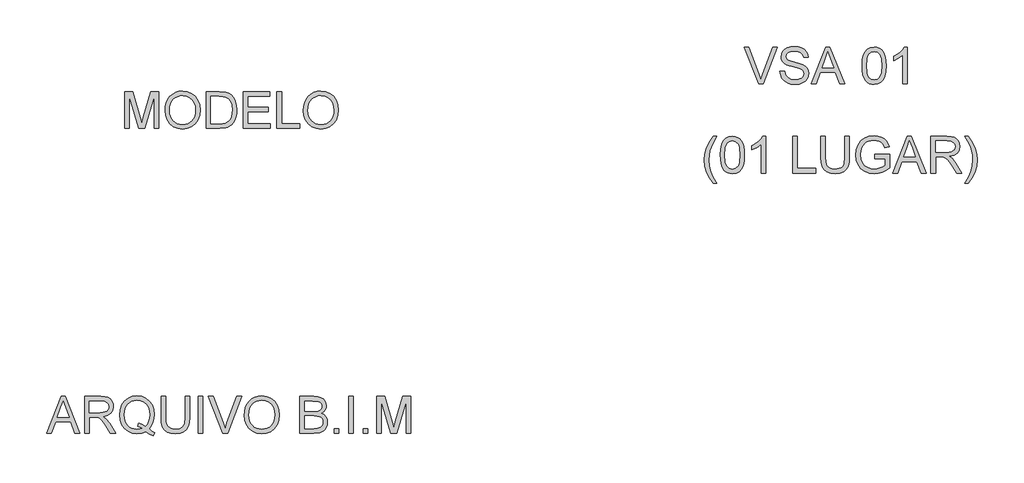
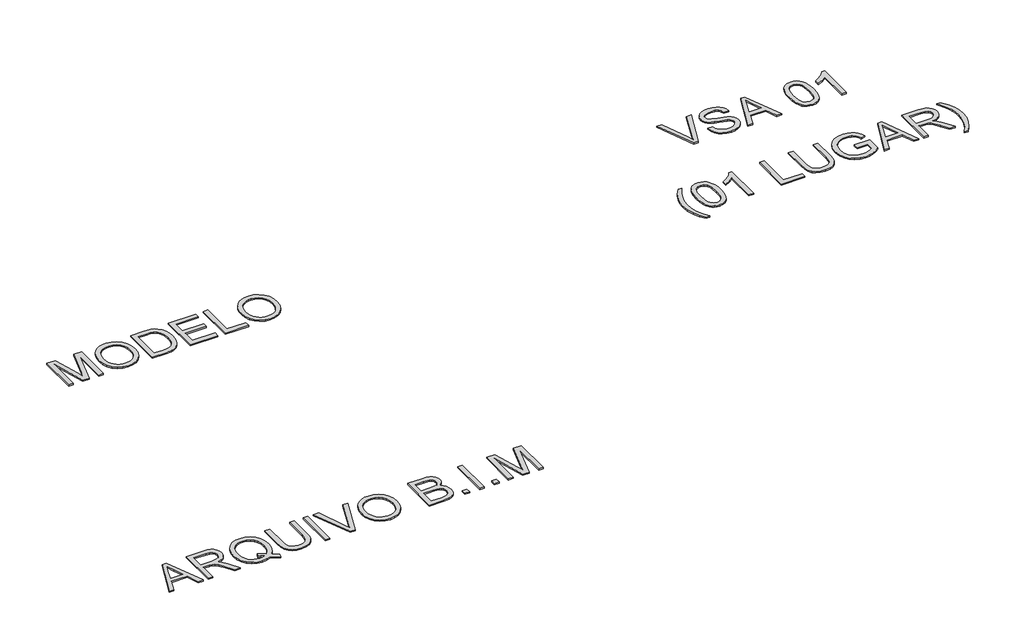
# One storey, part 1 of 4: 3 proxies.
"""IFC4 building model written with IfcOpenShell, lengths in millimetres."""

from ifc_helpers import new_model, si_unit, origin, origin_with_axes, place, context, project, spatial, polyline, outline, extrude, element, save

model = new_model("IFC4")

# Units and contexts
model_context = context("Model", 3, world=origin())
ifc_project = project(units=[si_unit("LENGTHUNIT", "METRE", prefix="MILLI")], contexts=[model_context])

# Site, building, storey
site = spatial("IfcSite", under=ifc_project)
building = spatial("IfcBuilding", under=site)
storey = spatial("IfcBuildingStorey", under=building, Name="Marelli - Linha VIGORE - Planta Baixa", Elevation=0.0)

# Proxies
placement = place(None, origin())
element("IfcBuildingElementProxy", 1, Name="300mm Arial", ObjectType="300mm Arial", at=placement, inside=storey, context=model_context, shape_type="SweptSolid", body=[
    extrude(outline(polyline([(-16767.1905582, 10085.3581335), (-16887.1200887, 10386.7270639), (-16846.800222, 10386.7270639), (-16766.5283706, 10169.6031104), (-16750.2679865, 10120.674805), (-16734.2283315, 10169.6031104), (-16653.7357509, 10386.7270639), (-16613.4158842, 10386.7270639), (-16728.2686431, 10085.3581335), (-16767.1905582, 10085.3581335)])), origin_with_axes(), (0.0, 0.0, 1.0), 10.0),
    extrude(outline(polyline([(-16592.5201869, 10188.9537033), (-16554.8490706, 10188.9537033), (-16550.5264572, 10168.0488089), (-16542.7089648, 10151.2457988), (-16530.5136766, 10137.9100765), (-16513.057676, 10127.4070455), (-16491.7205202, 10120.5920316), (-16467.881767, 10118.3203602), (-16446.8940991, 10120.0402086), (-16428.5183935, 10125.1997535), (-16413.6283697, 10133.3667338), (-16403.0977476, 10144.1088881), (-16396.8345566, 10156.442132), (-16394.7468263, 10169.3823812), (-16396.3103248, 10181.9915366), (-16401.0008202, 10192.8900407), (-16410.5289639, 10202.1882581), (-16426.6054071, 10209.9965534), (-16481.4566126, 10224.3807394), (-16517.4630629, 10233.8996861), (-16540.5016728, 10242.9587802), (-16559.2544575, 10255.6323149), (-16572.5441946, 10270.9913882), (-16580.4628545, 10288.7049063), (-16583.1024078, 10308.4417753), (-16579.8374551, 10330.505498), (-16570.042597, 10351.0792986), (-16553.9753509, 10368.5169052), (-16531.8932341, 10381.1720458), (-16505.3873364, 10388.8699765), (-16476.0487472, 10391.4359535), (-16444.2637429, 10388.7504149), (-16416.451864, 10380.6937992), (-16393.6063921, 10367.4316533), (-16376.7206085, 10349.129524), (-16366.0336366, 10326.9278456), (-16361.7845995, 10301.9670522), (-16399.4557159, 10301.9670522), (-16406.3718974, 10324.4446421), (-16420.7928716, 10340.6682381), (-16443.3256438, 10350.4906874), (-16474.5772193, 10353.7648371), (-16506.5645587, 10350.5274756), (-16528.5087198, 10340.8153909), (-16541.2006486, 10326.5231754), (-16545.4312915, 10309.5454213), (-16542.4330533, 10295.0692648), (-16533.4383385, 10283.4257997), (-16512.1747592, 10273.0147392), (-16471.9284689, 10262.3829495), (-16430.3945916, 10252.2845888), (-16405.2682514, 10243.473815), (-16383.7931399, 10229.8069989), (-16368.8111457, 10212.9396094), (-16360.0095689, 10193.0555876), (-16357.07571, 10170.3388744), (-16360.4510273, 10147.1163234), (-16370.5769792, 10125.2733299), (-16387.0396985, 10106.47456), (-16409.4253179, 10092.3846796), (-16436.3450829, 10083.5831028), (-16466.410239, 10080.6492439), (-16503.3180001, 10083.8130291), (-16533.6958559, 10093.3043846), (-16557.8932941, 10109.1600986), (-16576.2598027, 10131.4169593), (-16588.0504207, 10158.5298623), (-16592.5201869, 10188.9537033)])), origin_with_axes(), (0.0, 0.0, 1.0), 10.0),
    extrude(outline(polyline([(-16335.6649779, 10085.3581335), (-16215.3675655, 10386.7270639), (-16183.2882555, 10386.7270639), (-16062.9908431, 10085.3581335), (-16102.7956749, 10085.3581335), (-16137.3030061, 10179.5359242), (-16261.4263913, 10179.5359242), (-16295.860146, 10085.3581335), (-16335.6649779, 10085.3581335)]), holes=[polyline([(-16247.5940282, 10217.2070405), (-16151.0617927, 10217.2070405), (-16178.211484, 10291.2984744), (-16199.3279105, 10349.0559476), (-16218.0898922, 10297.7731975), (-16247.5940282, 10217.2070405)])]), origin_with_axes(), (0.0, 0.0, 1.0), 10.0),
    extrude(outline(polyline([(-15919.1489829, 10233.6145775), (-15916.3806709, 10281.8531041), (-15908.0757349, 10320.3243638), (-15894.3169483, 10349.6169677), (-15875.1870845, 10370.3195269), (-15850.5481879, 10382.6251797), (-15820.2623026, 10386.7270639), (-15797.0489487, 10384.2990427), (-15776.263616, 10377.0149792), (-15758.8811918, 10365.1599819), (-15745.8765632, 10349.0191594), (-15736.0541139, 10328.7304674), (-15728.2182275, 10304.4318616), (-15723.0862736, 10273.5757592), (-15721.3756223, 10233.6145775), (-15724.1163432, 10185.6519624), (-15732.3385058, 10147.2726733), (-15746.014519, 10117.9524782), (-15765.1167916, 10097.1671455), (-15789.8108705, 10084.7787193), (-15820.2623026, 10080.6492439), (-15841.0108472, 10082.4426687), (-15859.4049469, 10087.8229428), (-15875.4446019, 10096.7900665), (-15889.1298121, 10109.3440396), (-15902.2631994, 10132.0377601), (-15911.6441902, 10160.31409), (-15917.2727848, 10194.1730291), (-15919.1489829, 10233.6145775)]), holes=[polyline([(-15881.4778666, 10233.6881539), (-15877.0632827, 10174.4315615), (-15871.5450528, 10154.1635629), (-15863.8195309, 10140.1357625), (-15844.1010559, 10123.7742108), (-15820.2623026, 10118.3203602), (-15796.4235494, 10123.7926049), (-15776.7050744, 10140.2093389), (-15768.9795525, 10154.2601319), (-15763.4613226, 10174.523532), (-15759.0467386, 10233.6881539), (-15763.3141698, 10291.6111741), (-15768.6484587, 10311.8124941), (-15776.1164632, 10326.1736875), (-15795.79815, 10343.3353826), (-15820.703761, 10349.0559476), (-15844.2849969, 10344.0159643), (-15863.2309197, 10328.8960143), (-15871.213959, 10313.2610295), (-15876.9161299, 10292.1813912), (-15881.4778666, 10233.6881539)])]), origin_with_axes(), (0.0, 0.0, 1.0), 10.0),
    extrude(outline(polyline([(-15547.1467094, 10085.3581335), (-15584.8178257, 10085.3581335), (-15584.8178257, 10320.2139992), (-15620.5023793, 10294.7933533), (-15660.1600583, 10275.7738542), (-15660.1600583, 10311.3848313), (-15630.5731489, 10327.4796686), (-15604.9409709, 10346.6279264), (-15584.7350523, 10366.9901949), (-15571.4269211, 10386.7270639), (-15547.1467094, 10386.7270639), (-15547.1467094, 10085.3581335)])), origin_with_axes(), (0.0, 0.0, 1.0), 10.0),
    extrude(outline(polyline([(-17138.7513734, 9268.7492147), (-17167.9428097, 9309.7128749), (-17192.2414155, 9357.1144699), (-17208.6305583, 9408.6547375), (-17214.093606, 9462.034415), (-17210.0101158, 9508.8473989), (-17197.7596454, 9553.6370318), (-17173.4426455, 9604.3679589), (-17138.7513734, 9654.8781568), (-17110.4980361, 9654.8781568), (-17145.7411313, 9595.2076972), (-17166.9311342, 9537.3766476), (-17174.0496508, 9499.6871372), (-17176.4224897, 9461.8136858), (-17172.3022113, 9413.5199769), (-17159.9413763, 9365.244662), (-17139.3399846, 9316.9877413), (-17110.4980361, 9268.7492147), (-17138.7513734, 9268.7492147)])), origin_with_axes(), (0.0, 0.0, 1.0), 10.0),
    extrude(outline(polyline([(-17082.2446989, 9501.7656705), (-17079.4763869, 9550.0041971), (-17071.1714508, 9588.4754567), (-17057.4126642, 9617.7680606), (-17038.2828005, 9638.4706199), (-17013.6439038, 9650.7762726), (-16983.3580186, 9654.8781568), (-16960.1446647, 9652.4501357), (-16939.359332, 9645.1660722), (-16921.9769077, 9633.3110749), (-16908.9722792, 9617.1702523), (-16899.1498299, 9596.8815603), (-16891.3139434, 9572.5829545), (-16886.1819896, 9541.7268522), (-16884.4713383, 9501.7656705), (-16887.2120592, 9453.8030553), (-16895.4342217, 9415.4237662), (-16909.1102349, 9386.1035712), (-16928.2125075, 9365.3182384), (-16952.9065864, 9352.9298123), (-16983.3580186, 9348.8003369), (-17004.1065631, 9350.5937616), (-17022.5006629, 9355.9740358), (-17038.5403179, 9364.9411594), (-17052.2255281, 9377.4951325), (-17065.3589153, 9400.1888531), (-17074.7399062, 9428.4651829), (-17080.3685007, 9462.324122), (-17082.2446989, 9501.7656705)]), holes=[polyline([(-17044.5735826, 9501.8392469), (-17040.1589987, 9442.5826545), (-17034.6407687, 9422.3146558), (-17026.9152468, 9408.2868555), (-17007.1967719, 9391.9253037), (-16983.3580186, 9386.4714532), (-16959.5192653, 9391.9436978), (-16939.8007904, 9408.3604319), (-16932.0752685, 9422.4112248), (-16926.5570385, 9442.674625), (-16922.1424546, 9501.8392469), (-16926.4098857, 9559.762267), (-16931.7441747, 9579.9635871), (-16939.2121792, 9594.3247804), (-16958.8938659, 9611.4864755), (-16983.799477, 9617.2070405), (-17007.3807129, 9612.1670572), (-17026.3266356, 9597.0471072), (-17034.3096749, 9581.4121224), (-17040.0118459, 9560.3324841), (-17044.5735826, 9501.8392469)])]), origin_with_axes(), (0.0, 0.0, 1.0), 10.0),
    extrude(outline(polyline([(-16710.2424254, 9353.5092264), (-16747.9135417, 9353.5092264), (-16747.9135417, 9588.3650921), (-16783.5980952, 9562.9444463), (-16823.2557743, 9543.9249471), (-16823.2557743, 9579.5359242), (-16793.6688648, 9595.6307615), (-16768.0366868, 9614.7790194), (-16747.8307682, 9635.1412878), (-16734.5226371, 9654.8781568), (-16710.2424254, 9654.8781568), (-16710.2424254, 9353.5092264)])), origin_with_axes(), (0.0, 0.0, 1.0), 10.0),
    extrude(outline(polyline([(-16488.9246171, 9353.5092264), (-16488.9246171, 9654.8781568), (-16451.2535008, 9654.8781568), (-16451.2535008, 9391.1803427), (-16300.5690355, 9391.1803427), (-16300.5690355, 9353.5092264), (-16488.9246171, 9353.5092264)])), origin_with_axes(), (0.0, 0.0, 1.0), 10.0),
    extrude(outline(polyline([(-16060.4156691, 9654.8781568), (-16022.7445528, 9654.8781568), (-16022.7445528, 9481.0171259), (-16025.3013327, 9440.3017861), (-16032.9716723, 9408.9490431), (-16047.300676, 9384.7608019), (-16069.8334482, 9365.5389676), (-16100.6251712, 9352.9849946), (-16139.7310273, 9348.8003369), (-16177.9815577, 9352.4423686), (-16208.5617486, 9363.3684639), (-16231.4807969, 9381.2015436), (-16246.7478997, 9405.5645287), (-16255.3287472, 9438.2416469), (-16258.1890297, 9481.0171259), (-16258.1890297, 9654.8781568), (-16220.5179134, 9654.8781568), (-16220.5179134, 9482.3415011), (-16218.6601093, 9448.4871605), (-16213.0866971, 9424.9151217), (-16202.9883363, 9408.5903581), (-16187.5556866, 9396.4778434), (-16167.4325415, 9388.9730507), (-16143.2626944, 9386.4714532), (-16104.9477846, 9391.419466), (-16090.6049853, 9397.604482), (-16079.4719564, 9406.2635045), (-16071.1348307, 9418.4403985), (-16065.1797409, 9435.1790293), (-16060.4156691, 9482.3415011), (-16060.4156691, 9654.8781568)])), origin_with_axes(), (0.0, 0.0, 1.0), 10.0),
    extrude(outline(polyline([(-15815.5534131, 9471.2314649), (-15815.5534131, 9508.9025812), (-15693.1222851, 9508.9025812), (-15693.1222851, 9396.2571142), (-15722.8747415, 9375.563752), (-15753.5652969, 9360.7197135), (-15785.1203751, 9351.780181), (-15817.4663995, 9348.8003369), (-15859.7268437, 9353.5368175), (-15897.9221918, 9367.7462596), (-15929.6520139, 9390.9320224), (-15952.5158799, 9422.5974651), (-15966.3390459, 9460.5812811), (-15970.9467679, 9502.7221636), (-15966.35744, 9545.1665488), (-15952.5894563, 9584.649484), (-15930.213034, 9617.7680606), (-15899.79839, 9641.1193702), (-15862.7526731, 9654.9701273), (-15820.4830318, 9659.5870464), (-15789.4521855, 9656.9107049), (-15761.5483362, 9648.8816803), (-15738.0498738, 9636.0793869), (-15720.2351882, 9619.0832387), (-15707.0558157, 9597.0746984), (-15697.4632927, 9569.2352284), (-15732.191353, 9559.4495673), (-15739.944466, 9579.305998), (-15749.3714422, 9594.2879922), (-15761.8426418, 9605.5819695), (-15778.7284254, 9614.3743492), (-15798.8607676, 9620.0305349), (-15821.071643, 9621.9159301), (-15847.071703, 9619.8833821), (-15869.3009726, 9613.785738), (-15887.6766783, 9604.386353), (-15902.1160466, 9592.4485823), (-15921.5034277, 9563.4226928), (-15930.3325956, 9534.9854146), (-15933.2756516, 9504.267268), (-15929.7347874, 9468.2424236), (-15919.1121947, 9438.6003319), (-15901.7297705, 9415.5525249), (-15877.9094113, 9399.3105348), (-15850.0331531, 9389.6812236), (-15820.4830318, 9386.4714532), (-15794.3910013, 9388.8902773), (-15768.9427643, 9396.1467496), (-15746.8422535, 9406.1439429), (-15730.7934014, 9416.7849296), (-15730.7934014, 9471.2314649), (-15815.5534131, 9471.2314649)])), origin_with_axes(), (0.0, 0.0, 1.0), 10.0),
    extrude(outline(polyline([(-15667.0026635, 9353.5092264), (-15546.705251, 9654.8781568), (-15514.6259411, 9654.8781568), (-15394.3285286, 9353.5092264), (-15434.1333605, 9353.5092264), (-15468.6406917, 9447.6870172), (-15592.7640768, 9447.6870172), (-15627.1978316, 9353.5092264), (-15667.0026635, 9353.5092264)]), holes=[polyline([(-15578.9317138, 9485.3581335), (-15482.3994783, 9485.3581335), (-15509.5491695, 9559.4495673), (-15530.665596, 9617.2070405), (-15549.4275778, 9565.9242904), (-15578.9317138, 9485.3581335)])]), origin_with_axes(), (0.0, 0.0, 1.0), 10.0),
    extrude(outline(polyline([(-15354.0822384, 9353.5092264), (-15354.0822384, 9654.8781568), (-15224.2198941, 9654.8781568), (-15189.3170898, 9652.8456088), (-15163.9240351, 9646.7479648), (-15145.3643884, 9635.4907757), (-15130.9618083, 9617.9795927), (-15121.7187732, 9596.265358), (-15118.6377614, 9572.3990135), (-15123.7421241, 9542.7109365), (-15139.0552122, 9518.099631), (-15150.6549913, 9508.0702481), (-15165.0368781, 9500.0550192), (-15202.1469743, 9490.067023), (-15180.7362422, 9473.9537916), (-15150.2020366, 9435.1790293), (-15099.9493561, 9353.5092264), (-15143.7273135, 9353.5092264), (-15182.9435342, 9415.9755892), (-15211.2704478, 9457.3255254), (-15231.1728638, 9476.8600594), (-15249.0887169, 9484.0337583), (-15270.9409074, 9485.3581335), (-15316.4111221, 9485.3581335), (-15316.4111221, 9353.5092264), (-15354.0822384, 9353.5092264)]), holes=[polyline([(-15316.4111221, 9523.0292498), (-15232.0925688, 9523.0292498), (-15207.8767364, 9524.362822), (-15189.0871635, 9528.3635387), (-15174.9421008, 9535.2981143), (-15164.659799, 9545.4332633), (-15158.3966081, 9557.6929308), (-15156.3088778, 9571.0010619), (-15160.2912003, 9589.3767676), (-15172.2381681, 9604.1840179), (-15192.7935746, 9613.9512849), (-15222.6012133, 9617.2070405), (-15316.4111221, 9617.2070405), (-15316.4111221, 9523.0292498)])]), origin_with_axes(), (0.0, 0.0, 1.0), 10.0),
    extrude(outline(polyline([(-15048.0044184, 9268.7492147), (-15076.2577556, 9268.7492147), (-15047.4158072, 9316.9877413), (-15026.8144154, 9365.244662), (-15014.4535804, 9413.5199769), (-15010.3333021, 9461.8136858), (-15012.7061409, 9499.4112257), (-15019.8246575, 9536.71446), (-15028.8193723, 9566.2737783), (-15040.7939313, 9594.619086), (-15076.2577556, 9654.8781568), (-15048.0044184, 9654.8781568), (-15013.3131462, 9604.3679589), (-14988.9961463, 9553.6370318), (-14976.7456759, 9508.8473989), (-14972.6621858, 9462.034415), (-14978.1528245, 9408.6547375), (-14994.6247409, 9357.1144699), (-15018.9509378, 9309.7128749), (-15048.0044184, 9268.7492147)])), origin_with_axes(), (0.0, 0.0, 1.0), 10.0),
])
element("IfcBuildingElementProxy", 2, Name="300mm Arial", ObjectType="300mm Arial", at=placement, inside=storey, context=model_context, shape_type="SweptSolid", body=[
    extrude(outline(polyline([(-22609.419598, 7219.4336799), (-22489.1221856, 7520.8026104), (-22457.0428756, 7520.8026104), (-22336.7454632, 7219.4336799), (-22376.550295, 7219.4336799), (-22411.0576262, 7313.6114707), (-22535.1810114, 7313.6114707), (-22569.6147661, 7219.4336799), (-22609.419598, 7219.4336799)]), holes=[polyline([(-22521.3486483, 7351.282587), (-22424.8164128, 7351.282587), (-22451.9661041, 7425.3740208), (-22473.0825306, 7483.1314941), (-22491.8445123, 7431.8487439), (-22521.3486483, 7351.282587)])]), origin_with_axes(), (0.0, 0.0, 1.0), 10.0),
    extrude(outline(polyline([(-22296.4991729, 7219.4336799), (-22296.4991729, 7520.8026104), (-22166.6368286, 7520.8026104), (-22131.7340243, 7518.7700624), (-22106.3409696, 7512.6724183), (-22087.7813229, 7501.4152292), (-22073.3787428, 7483.9040463), (-22064.1357077, 7462.1898115), (-22061.054696, 7438.3234671), (-22066.1590587, 7408.6353901), (-22081.4721467, 7384.0240846), (-22093.0719259, 7373.9947017), (-22107.4538126, 7365.9794727), (-22144.5639089, 7355.9914765), (-22123.1531768, 7339.8782452), (-22092.6189712, 7301.1034829), (-22042.3662906, 7219.4336799), (-22086.144248, 7219.4336799), (-22125.3604687, 7281.9000427), (-22153.6873824, 7323.249979), (-22173.5897983, 7342.7845129), (-22191.5056515, 7349.9582118), (-22213.357842, 7351.282587), (-22258.8280566, 7351.282587), (-22258.8280566, 7219.4336799), (-22296.4991729, 7219.4336799)]), holes=[polyline([(-22258.8280566, 7388.9537033), (-22174.5095033, 7388.9537033), (-22150.293671, 7390.2872755), (-22131.5040981, 7394.2879922), (-22117.3590353, 7401.2225678), (-22107.0767336, 7411.3577168), (-22100.8135426, 7423.6173843), (-22098.7258123, 7436.9255155), (-22102.7081349, 7455.3012211), (-22114.6551027, 7470.1084714), (-22135.2105092, 7479.8757384), (-22165.0181478, 7483.1314941), (-22258.8280566, 7483.1314941), (-22258.8280566, 7388.9537033)])]), origin_with_axes(), (0.0, 0.0, 1.0), 10.0),
    extrude(outline(polyline([(-21768.7356626, 7255.5596919), (-21744.4002686, 7236.963257), (-21722.0146492, 7224.1425695), (-21732.1681923, 7196.5514198), (-21763.2358268, 7210.9539999), (-21794.1930967, 7231.794515), (-21829.0499157, 7218.9922215), (-21867.4016137, 7214.7247904), (-21905.9372527, 7219.6452121), (-21940.7572836, 7234.4064771), (-21969.9211287, 7258.0796835), (-21991.4882107, 7289.7359292), (-22004.814736, 7327.6369718), (-22009.2569111, 7370.0445688), (-22004.823933, 7412.488954), (-21991.5249989, 7450.9418195), (-21970.0406904, 7483.0487206), (-21941.0515892, 7506.4552126), (-21906.360317, 7520.7474281), (-21867.7694957, 7525.5114999), (-21828.8751718, 7520.6370635), (-21794.0091557, 7506.0137542), (-21765.0660397, 7482.6164593), (-21743.9404161, 7451.4200661), (-21731.0277581, 7414.0800436), (-21726.7235388, 7372.2518607), (-21729.3355009, 7337.4686181), (-21737.1713874, 7306.4009836), (-21750.2863806, 7279.0857454), (-21768.7356626, 7255.5596919)]), holes=[polyline([(-21857.0273415, 7305.6652196), (-21825.3527017, 7293.6906607), (-21799.784903, 7277.0440004), (-21784.3016695, 7294.5183951), (-21773.2422171, 7315.8923391), (-21766.6065456, 7341.1658321), (-21764.3946551, 7370.3388744), (-21767.521652, 7403.4942392), (-21776.9026429, 7432.1798377), (-21792.3077015, 7455.6691031), (-21813.5069014, 7473.2354684), (-21839.065503, 7484.1891548), (-21867.5487665, 7487.8403836), (-21889.033075, 7485.9940758), (-21908.6043972, 7480.4551526), (-21926.2627329, 7471.2236137), (-21942.0080823, 7458.2994594), (-21954.9483315, 7441.7102807), (-21964.1913666, 7421.4836687), (-21969.7371877, 7397.6196236), (-21971.5857948, 7370.1181452), (-21969.7578811, 7343.3340366), (-21964.2741401, 7319.8562676), (-21955.1345718, 7299.6848379), (-21942.3391761, 7282.8197477), (-21926.7018921, 7269.5093173), (-21909.0366585, 7260.001867), (-21889.3434755, 7254.2973968), (-21867.6223429, 7252.3959067), (-21846.7082515, 7254.3272872), (-21827.081747, 7260.1214286), (-21846.3771577, 7270.146213), (-21866.7394261, 7276.8232712), (-21857.0273415, 7305.6652196)])]), origin_with_axes(), (0.0, 0.0, 1.0), 10.0),
    extrude(outline(polyline([(-21472.4435037, 7520.8026104), (-21434.7723874, 7520.8026104), (-21434.7723874, 7346.9415795), (-21437.3291673, 7306.2262396), (-21444.9995069, 7274.8734966), (-21459.3285106, 7250.6852554), (-21481.8612828, 7231.4634212), (-21512.6530058, 7218.9094481), (-21551.7588619, 7214.7247904), (-21590.0093923, 7218.3668221), (-21620.5895832, 7229.2929174), (-21643.5086315, 7247.1259971), (-21658.7757343, 7271.4889822), (-21667.3565818, 7304.1661005), (-21670.2168643, 7346.9415795), (-21670.2168643, 7520.8026104), (-21632.545748, 7520.8026104), (-21632.545748, 7348.2659546), (-21630.6879439, 7314.411614), (-21625.1145317, 7290.8395752), (-21615.0161709, 7274.5148117), (-21599.5835212, 7262.402297), (-21579.4603761, 7254.8975043), (-21555.290529, 7252.3959067), (-21516.9756192, 7257.3439195), (-21502.6328199, 7263.5289356), (-21491.499791, 7272.187958), (-21483.1626653, 7284.3648521), (-21477.2075755, 7301.1034829), (-21472.4435037, 7348.2659546), (-21472.4435037, 7520.8026104)])), origin_with_axes(), (0.0, 0.0, 1.0), 10.0),
    extrude(outline(polyline([(-21364.1390443, 7219.4336799), (-21364.1390443, 7520.8026104), (-21326.467928, 7520.8026104), (-21326.467928, 7219.4336799), (-21364.1390443, 7219.4336799)])), origin_with_axes(), (0.0, 0.0, 1.0), 10.0),
    extrude(outline(polyline([(-21162.0982526, 7219.4336799), (-21282.027783, 7520.8026104), (-21241.7079163, 7520.8026104), (-21161.436065, 7303.6786568), (-21145.1756808, 7254.7503515), (-21129.1360258, 7303.6786568), (-21048.6434453, 7520.8026104), (-21008.3235786, 7520.8026104), (-21123.1763375, 7219.4336799), (-21162.0982526, 7219.4336799)])), origin_with_axes(), (0.0, 0.0, 1.0), 10.0),
    extrude(outline(polyline([(-20987.4278813, 7366.1450196), (-20984.9170866, 7401.4938808), (-20977.3847028, 7432.786843), (-20964.8307297, 7460.0239063), (-20947.2551674, 7483.2050705), (-20925.711078, 7501.7141334), (-20901.2515239, 7514.9348926), (-20873.8765049, 7522.8673481), (-20843.5860211, 7525.5114999), (-20804.0571008, 7520.545093), (-20768.6116705, 7505.6458722), (-20739.1811109, 7481.8623012), (-20717.6968024, 7450.2428437), (-20704.5634152, 7412.31421), (-20700.1856194, 7369.6031104), (-20704.7933414, 7326.3217936), (-20718.6165074, 7287.859731), (-20740.8917622, 7256.1850913), (-20770.8557507, 7233.266043), (-20805.9976783, 7219.3601035), (-20843.8067503, 7214.7247904), (-20883.942676, 7219.8475472), (-20919.5904413, 7235.2158175), (-20948.9474246, 7259.4408469), (-20970.2110039, 7291.1338808), (-20983.1236619, 7327.6001836), (-20987.4278813, 7366.1450196)]), holes=[polyline([(-20949.7567649, 7365.7771376), (-20947.873669, 7340.8025487), (-20942.2243811, 7318.6330599), (-20932.8089013, 7299.2686714), (-20919.6272295, 7282.7093831), (-20903.6036694, 7269.4472372), (-20885.6625243, 7259.9742758), (-20865.8037944, 7254.290499), (-20844.0274795, 7252.3959067), (-20821.8786842, 7254.3088931), (-20801.7854294, 7260.0478522), (-20783.7477154, 7269.6127841), (-20767.7655419, 7283.0036887), (-20754.6804392, 7299.9124649), (-20745.3339373, 7320.0310115), (-20739.7260361, 7343.3593285), (-20737.8567357, 7369.897416), (-20741.0573091, 7403.2459188), (-20750.6590292, 7432.0694731), (-20766.4135756, 7455.641512), (-20788.0726281, 7473.2354684), (-20814.2014468, 7484.1891548), (-20843.3652919, 7487.8403836), (-20864.3851494, 7486.0814478), (-20883.8874937, 7480.8046405), (-20901.8723248, 7472.0099615), (-20918.3396426, 7459.697411), (-20932.0846336, 7443.2737792), (-20941.9024844, 7422.1458563), (-20947.7931948, 7396.3136425), (-20949.7567649, 7365.7771376)])]), origin_with_axes(), (0.0, 0.0, 1.0), 10.0),
    extrude(outline(polyline([(-20530.665596, 7219.4336799), (-20530.665596, 7520.8026104), (-20415.6656844, 7520.8026104), (-20384.0370298, 7518.5861214), (-20359.3429509, 7511.9366543), (-20340.4154222, 7500.6886623), (-20326.0864185, 7484.6765985), (-20317.0641126, 7465.8410403), (-20314.0566773, 7446.1225654), (-20316.585866, 7427.9767859), (-20324.1734321, 7410.9162584), (-20336.874558, 7395.9894465), (-20354.7444259, 7384.2448138), (-20333.3980732, 7373.0979893), (-20317.6251326, 7356.1386293), (-20307.8854568, 7334.4887739), (-20304.6388982, 7309.2704632), (-20306.8553872, 7288.2552042), (-20313.5048543, 7268.7666555), (-20323.4284711, 7252.1935716), (-20335.4674094, 7239.9247071), (-20350.2102804, 7231.0403569), (-20368.2456952, 7224.6208161), (-20416.5486011, 7219.4336799), (-20530.665596, 7219.4336799)]), holes=[polyline([(-20492.9944797, 7398.3714824), (-20424.2005466, 7398.3714824), (-20384.0278328, 7401.6088439), (-20369.9655435, 7407.1914532), (-20359.8579857, 7415.5515716), (-20353.7603416, 7426.5604403), (-20351.7277936, 7440.0893006), (-20353.6223859, 7453.2226879), (-20359.3061627, 7464.6638179), (-20368.5216067, 7473.5941533), (-20381.0112004, 7479.1951567), (-20429.424471, 7483.1314941), (-20492.9944797, 7483.1314941), (-20492.9944797, 7398.3714824)]), polyline([(-20492.9944797, 7257.1047962), (-20415.7392607, 7257.1047962), (-20387.7802291, 7258.5763242), (-20364.1254168, 7266.7800927), (-20348.4536438, 7283.5187235), (-20343.8459218, 7295.3461296), (-20342.3100145, 7308.9025812), (-20344.1126363, 7324.6479306), (-20349.5205016, 7338.185988), (-20358.9658718, 7348.7717924), (-20372.8810083, 7355.6603827), (-20392.5902862, 7359.4403702), (-20419.4180807, 7360.7003661), (-20492.9944797, 7360.7003661), (-20492.9944797, 7257.1047962)])]), origin_with_axes(), (0.0, 0.0, 1.0), 10.0),
    extrude(outline(polyline([(-20248.1322237, 7219.4336799), (-20248.1322237, 7257.1047962), (-20210.4611074, 7257.1047962), (-20210.4611074, 7219.4336799), (-20248.1322237, 7219.4336799)])), origin_with_axes(), (0.0, 0.0, 1.0), 10.0),
    extrude(outline(polyline([(-20130.4099853, 7219.4336799), (-20130.4099853, 7520.8026104), (-20092.738869, 7520.8026104), (-20092.738869, 7219.4336799), (-20130.4099853, 7219.4336799)])), origin_with_axes(), (0.0, 0.0, 1.0), 10.0),
    extrude(outline(polyline([(-20012.6877468, 7219.4336799), (-20012.6877468, 7257.1047962), (-19975.0166305, 7257.1047962), (-19975.0166305, 7219.4336799), (-20012.6877468, 7219.4336799)])), origin_with_axes(), (0.0, 0.0, 1.0), 10.0),
    extrude(outline(polyline([(-19899.6743979, 7219.4336799), (-19899.6743979, 7520.8026104), (-19834.8535904, 7520.8026104), (-19773.196568, 7308.3875464), (-19760.7621565, 7264.0209777), (-19747.2976755, 7312.0663663), (-19686.6707227, 7520.8026104), (-19621.8499152, 7520.8026104), (-19621.8499152, 7219.4336799), (-19659.5210315, 7219.4336799), (-19659.5210315, 7483.1314941), (-19735.2311461, 7219.4336799), (-19786.293167, 7219.4336799), (-19862.0032816, 7483.1314941), (-19862.0032816, 7219.4336799), (-19899.6743979, 7219.4336799)])), origin_with_axes(), (0.0, 0.0, 1.0), 10.0),
])
element("IfcBuildingElementProxy", 3, Name="300mm Arial", ObjectType="300mm Arial", at=placement, inside=storey, context=model_context, shape_type="SweptSolid", body=[
    extrude(outline(polyline([(-21966.8769052, 9719.4336799), (-21966.8769052, 10020.8026104), (-21902.0560977, 10020.8026104), (-21840.3990753, 9808.3875464), (-21827.9646638, 9764.0209777), (-21814.5001828, 9812.0663663), (-21753.87323, 10020.8026104), (-21689.0524225, 10020.8026104), (-21689.0524225, 9719.4336799), (-21726.7235388, 9719.4336799), (-21726.7235388, 9983.1314941), (-21802.4336534, 9719.4336799), (-21853.4956743, 9719.4336799), (-21929.2057889, 9983.1314941), (-21929.2057889, 9719.4336799), (-21966.8769052, 9719.4336799)])), origin_with_axes(), (0.0, 0.0, 1.0), 10.0),
    extrude(outline(polyline([(-21637.2546375, 9866.1450196), (-21634.7438429, 9901.4938808), (-21627.2114591, 9932.786843), (-21614.657486, 9960.0239063), (-21597.0819237, 9983.2050705), (-21575.5378343, 10001.7141334), (-21551.0782802, 10014.9348926), (-21523.7032612, 10022.8673481), (-21493.4127774, 10025.5114999), (-21453.883857, 10020.545093), (-21418.4384268, 10005.6458722), (-21389.0078672, 9981.8623012), (-21367.5235587, 9950.2428437), (-21354.3901714, 9912.31421), (-21350.0123757, 9869.6031104), (-21354.6200977, 9826.3217936), (-21368.4432637, 9787.859731), (-21390.7185185, 9756.1850913), (-21420.682507, 9733.266043), (-21455.8244346, 9719.3601035), (-21493.6335066, 9714.7247904), (-21533.7694323, 9719.8475472), (-21569.4171976, 9735.2158175), (-21598.7741808, 9759.4408469), (-21620.0377602, 9791.1338808), (-21632.9504182, 9827.6001836), (-21637.2546375, 9866.1450196)]), holes=[polyline([(-21599.5835212, 9865.7771376), (-21597.7004253, 9840.8025487), (-21592.0511374, 9818.6330599), (-21582.6356576, 9799.2686714), (-21569.4539858, 9782.7093831), (-21553.4304257, 9769.4472372), (-21535.4892806, 9759.9742758), (-21515.6305507, 9754.290499), (-21493.8542358, 9752.3959067), (-21471.7054404, 9754.3088931), (-21451.6121857, 9760.0478522), (-21433.5744716, 9769.6127841), (-21417.5922982, 9783.0036887), (-21404.5071955, 9799.9124649), (-21395.1606936, 9820.0310115), (-21389.5527924, 9843.3593285), (-21387.683492, 9869.897416), (-21390.8840654, 9903.2459188), (-21400.4857854, 9932.0694731), (-21416.2403319, 9955.641512), (-21437.8993843, 9973.2354684), (-21464.0282031, 9984.1891548), (-21493.1920482, 9987.8403836), (-21514.2119057, 9986.0814478), (-21533.71425, 9980.8046405), (-21551.699081, 9972.0099615), (-21568.1663988, 9959.697411), (-21581.9113899, 9943.2737792), (-21591.7292406, 9922.1458563), (-21597.6199511, 9896.3136425), (-21599.5835212, 9865.7771376)])]), origin_with_axes(), (0.0, 0.0, 1.0), 10.0),
    extrude(outline(polyline([(-21298.2145908, 9719.4336799), (-21298.2145908, 10020.8026104), (-21194.2511389, 10020.8026104), (-21140.4667912, 10016.4616028), (-21116.444097, 10008.0922874), (-21096.173799, 9994.9037179), (-21075.333284, 9971.9478814), (-21060.4892455, 9943.4002386), (-21051.6048953, 9909.8126124), (-21048.6434453, 9871.7368259), (-21050.6484021, 9839.3908015), (-21056.6632727, 9810.9259321), (-21065.8235344, 9786.6917057), (-21077.2646645, 9767.0376101), (-21090.4348399, 9751.522187), (-21104.7822377, 9739.7039779), (-21121.254154, 9730.9391893), (-21140.797885, 9724.5840279), (-21189.2479438, 9719.4336799), (-21298.2145908, 9719.4336799)]), holes=[polyline([(-21260.5434745, 9757.1047962), (-21193.8832569, 9757.1047962), (-21166.3105014, 9758.4659596), (-21145.39641, 9762.5494498), (-21129.6142724, 9769.1161434), (-21117.4373783, 9777.9269172), (-21104.3499764, 9794.2332866), (-21094.5183301, 9815.3405161), (-21088.3655037, 9841.3405761), (-21086.3145616, 9872.3254371), (-21090.3336724, 9913.3810678), (-21102.3910047, 9943.6945442), (-21120.2056904, 9964.5166651), (-21141.4968608, 9977.0982294), (-21163.1651104, 9981.6231779), (-21194.9133265, 9983.1314941), (-21260.5434745, 9983.1314941), (-21260.5434745, 9757.1047962)])]), origin_with_axes(), (0.0, 0.0, 1.0), 10.0),
    extrude(outline(polyline([(-20996.8456603, 9719.4336799), (-20996.8456603, 10020.8026104), (-20780.2367416, 10020.8026104), (-20780.2367416, 9983.1314941), (-20959.174544, 9983.1314941), (-20959.174544, 9893.6625928), (-20789.6545206, 9893.6625928), (-20789.6545206, 9855.9914765), (-20959.174544, 9855.9914765), (-20959.174544, 9757.1047962), (-20775.527852, 9757.1047962), (-20775.527852, 9719.4336799), (-20996.8456603, 9719.4336799)])), origin_with_axes(), (0.0, 0.0, 1.0), 10.0),
    extrude(outline(polyline([(-20719.0211776, 9719.4336799), (-20719.0211776, 10020.8026104), (-20681.3500613, 10020.8026104), (-20681.3500613, 9757.1047962), (-20530.665596, 9757.1047962), (-20530.665596, 9719.4336799), (-20719.0211776, 9719.4336799)])), origin_with_axes(), (0.0, 0.0, 1.0), 10.0),
    extrude(outline(polyline([(-20502.4122588, 9866.1450196), (-20499.9014642, 9901.4938808), (-20492.3690803, 9932.786843), (-20479.8151073, 9960.0239063), (-20462.2395449, 9983.2050705), (-20440.6954556, 10001.7141334), (-20416.2359014, 10014.9348926), (-20388.8608825, 10022.8673481), (-20358.5703987, 10025.5114999), (-20319.0414783, 10020.545093), (-20283.5960481, 10005.6458722), (-20254.1654885, 9981.8623012), (-20232.6811799, 9950.2428437), (-20219.5477927, 9912.31421), (-20215.169997, 9869.6031104), (-20219.777719, 9826.3217936), (-20233.6008849, 9787.859731), (-20255.8761397, 9756.1850913), (-20285.8401283, 9733.266043), (-20320.9820558, 9719.3601035), (-20358.7911279, 9714.7247904), (-20398.9270536, 9719.8475472), (-20434.5748189, 9735.2158175), (-20463.9318021, 9759.4408469), (-20485.1953814, 9791.1338808), (-20498.1080395, 9827.6001836), (-20502.4122588, 9866.1450196)]), holes=[polyline([(-20464.7411425, 9865.7771376), (-20462.8580465, 9840.8025487), (-20457.2087587, 9818.6330599), (-20447.7932788, 9799.2686714), (-20434.6116071, 9782.7093831), (-20418.5880469, 9769.4472372), (-20400.6469019, 9759.9742758), (-20380.7881719, 9754.290499), (-20359.0118571, 9752.3959067), (-20336.8630617, 9754.3088931), (-20316.769807, 9760.0478522), (-20298.7320929, 9769.6127841), (-20282.7499195, 9783.0036887), (-20269.6648168, 9799.9124649), (-20260.3183148, 9820.0310115), (-20254.7104137, 9843.3593285), (-20252.8411133, 9869.897416), (-20256.0416866, 9903.2459188), (-20265.6434067, 9932.0694731), (-20281.3979532, 9955.641512), (-20303.0570056, 9973.2354684), (-20329.1858243, 9984.1891548), (-20358.3496695, 9987.8403836), (-20379.369527, 9986.0814478), (-20398.8718713, 9980.8046405), (-20416.8567023, 9972.0099615), (-20433.3240201, 9959.697411), (-20447.0690112, 9943.2737792), (-20456.8868619, 9922.1458563), (-20462.7775724, 9896.3136425), (-20464.7411425, 9865.7771376)])]), origin_with_axes(), (0.0, 0.0, 1.0), 10.0),
])

save(model, "model.ifc")
